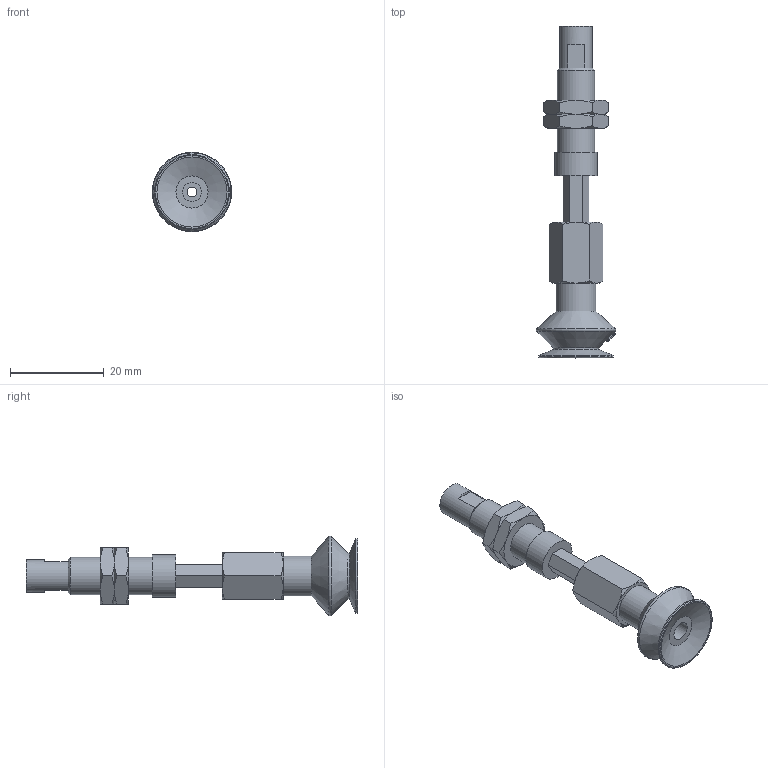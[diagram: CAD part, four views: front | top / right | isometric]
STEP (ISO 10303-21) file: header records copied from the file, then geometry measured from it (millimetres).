
FILE_DESCRIPTION(('STEP AP203'),'1');
FILE_NAME('.stp','2025-08-27T00:47:48',(' '),(' '),'Spatial InterOp 3D',' ',' ');
FILE_SCHEMA(('CONFIG_CONTROL_DESIGN'));
Length unit declared in the file: millimetre
Products named in the file (8): BNABPBTH-15A-10-※; ADAPTER; NAPATH-10A-10--M; Nut-15A-S-PB; NAPBTH-15A-10-FBODY; BPBG-15A-※; __27; BPBG-15A
Assembly tree (8 placements, depth 3):
  BNABPBTH-15A-10-※
    ADAPTER
    NAPATH-10A-10--M
    Nut-15A-S-PB  x2
    NAPBTH-15A-10-FBODY
    BPBG-15A-※
      __27
      BPBG-15A
Bounding box: 17 x 71 x 17 mm (x, y, z)
Volume: 4591.9 mm3; surface area: 4886.1 mm2
Topology: 7 solids, 7 shells, 138 faces, 302 edges, 186 vertices
Faces by surface type: plane 54, cone 50, cylinder 15, torus 11, bspline 8
Full cylindrical faces by diameter (mm): 2 x2, 4 x3, 4.134 x1, 6 x2, 7 x1, 7.188 x2, 8 x1, 8.5 x1, 9 x1, 16 x1
Entity records: 4597 total; most frequent: CARTESIAN_POINT 1947, DIRECTION 453, ORIENTED_EDGE 414, EDGE_CURVE 207, AXIS2_PLACEMENT_3D 194, EDGE_LOOP 167, VERTEX_POINT 146, FACE_OUTER_BOUND 140
